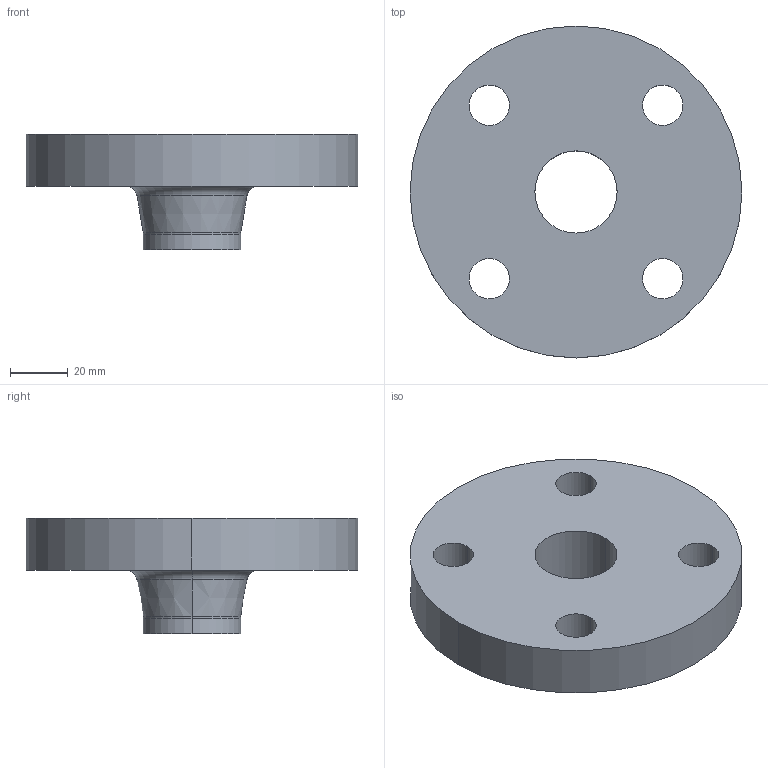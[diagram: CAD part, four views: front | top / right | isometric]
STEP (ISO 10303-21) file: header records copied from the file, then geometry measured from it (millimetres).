
FILE_DESCRIPTION (( 'STEP AP214' ), '1' );
FILE_NAME ('PN40 DN25 Type 11 - Type A Face.STEP', '2018-12-29T20:33:01', ( '' ), ( '' ), 'SwSTEP 2.0', 'SolidWorks 2019', '' );
FILE_SCHEMA (( 'AUTOMOTIVE_DESIGN' ));
Length unit declared in the file: millimetre
Products named in the file (1): PN40 DN25 Type 11 - Type A Face
Bounding box: 115 x 115 x 40 mm (x, y, z)
Volume: 172805.6 mm3; surface area: 33562.3 mm2
Topology: 1 solids, 1 shells, 23 faces, 54 edges, 34 vertices
Faces by surface type: cylinder 14, torus 4, plane 3, cone 2
Entity records: 732 total; most frequent: DIRECTION 140, CARTESIAN_POINT 112, ORIENTED_EDGE 108, AXIS2_PLACEMENT_3D 62, EDGE_CURVE 54, CIRCLE 38, EDGE_LOOP 34, VERTEX_POINT 34
